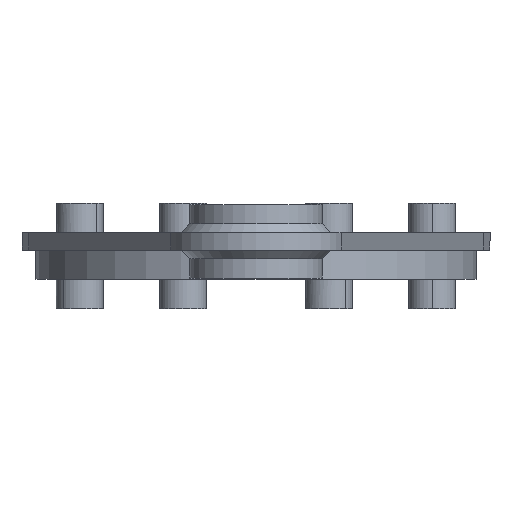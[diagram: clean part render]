
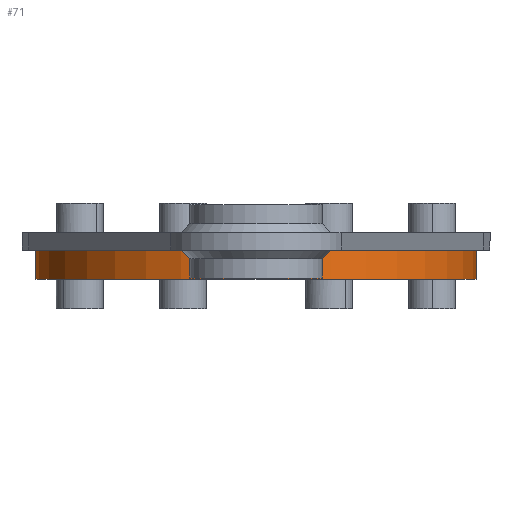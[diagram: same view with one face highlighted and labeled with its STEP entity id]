
A CAD part, front view. The second image highlights one B-rep face of the part: STEP entity #71.
In plain terms, the highlighted cylindrical face has radius 75 mm (diameter 150 mm), a partial arc.
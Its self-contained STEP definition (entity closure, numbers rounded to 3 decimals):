
#71=ADVANCED_FACE('',(#142),#1174,.T.);
#142=FACE_OUTER_BOUND('',#227,.T.);
#227=EDGE_LOOP('',(#414,#415,#416,#417));
#414=ORIENTED_EDGE('',*,*,#735,.T.);
#415=ORIENTED_EDGE('',*,*,#659,.F.);
#416=ORIENTED_EDGE('',*,*,#661,.F.);
#417=ORIENTED_EDGE('',*,*,#660,.T.);
#659=EDGE_CURVE('',#1042,#1121,#851,.T.);
#660=EDGE_CURVE('',#1068,#1120,#852,.T.);
#661=EDGE_CURVE('',#1068,#1042,#779,.T.);
#735=EDGE_CURVE('',#1120,#1121,#802,.T.);
#779=B_SPLINE_CURVE_WITH_KNOTS('',1,(#2232,#2233),.UNSPECIFIED.,.F.,.F.,
(2,2),(1.06,11.06),.UNSPECIFIED.);
#802=B_SPLINE_CURVE_WITH_KNOTS('',1,(#2431,#2432),.UNSPECIFIED.,.F.,.F.,
(2,2),(1.06,11.06),.UNSPECIFIED.);
#851=TRIMMED_CURVE($,#957,(#2227),(#2228),.T.,.CARTESIAN.);
#852=TRIMMED_CURVE($,#958,(#2230),(#2231),.T.,.CARTESIAN.);
#957=CIRCLE('',#1488,75.);
#958=CIRCLE('',#1489,75.);
#1042=VERTEX_POINT('',#1971);
#1068=VERTEX_POINT('',#1997);
#1120=VERTEX_POINT('',#2049);
#1121=VERTEX_POINT('',#2050);
#1174=CYLINDRICAL_SURFACE('',#1409,75.);
#1409=AXIS2_PLACEMENT_3D('',#1893,#1588,$);
#1488=AXIS2_PLACEMENT_3D($,#2226,#1707,#1708);
#1489=AXIS2_PLACEMENT_3D($,#2229,#1709,#1710);
#1588=DIRECTION('',(0.,0.,-1.));
#1707=DIRECTION('',(0.,0.,-1.));
#1708=DIRECTION('',(1.,0.,0.));
#1709=DIRECTION('',(0.,0.,-1.));
#1710=DIRECTION('',(1.,0.,0.));
#1893=CARTESIAN_POINT('',(0.,0.,8.));
#1971=CARTESIAN_POINT('',(75.,0.,3.));
#1997=CARTESIAN_POINT('',(75.,0.,13.));
#2049=CARTESIAN_POINT('',(-75.,0.,13.));
#2050=CARTESIAN_POINT('',(-75.,0.,3.));
#2226=CARTESIAN_POINT('',(0.,0.,3.));
#2227=CARTESIAN_POINT('',(75.,0.,3.));
#2228=CARTESIAN_POINT('',(-75.,0.,3.));
#2229=CARTESIAN_POINT('',(0.,0.,13.));
#2230=CARTESIAN_POINT('',(75.,0.,13.));
#2231=CARTESIAN_POINT('',(-75.,0.,13.));
#2232=CARTESIAN_POINT('',(75.,0.,13.));
#2233=CARTESIAN_POINT('',(75.,0.,3.));
#2431=CARTESIAN_POINT('',(-75.,0.,13.));
#2432=CARTESIAN_POINT('',(-75.,0.,3.));
